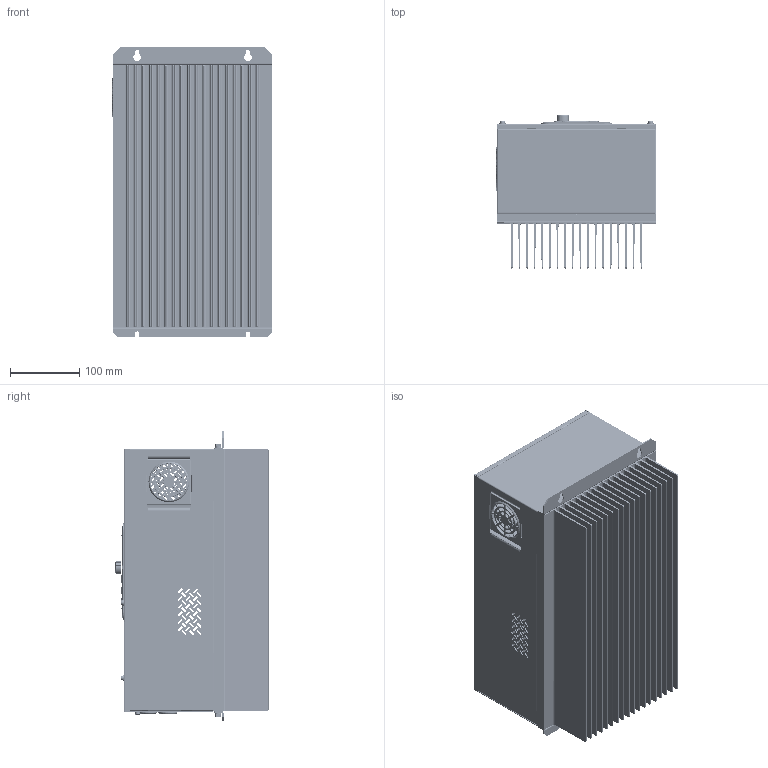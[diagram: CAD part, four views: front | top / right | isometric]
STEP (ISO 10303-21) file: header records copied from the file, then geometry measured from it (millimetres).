
FILE_DESCRIPTION((''),'2;1');
FILE_NAME('GD350-02-018G-4_ASM_ASM','2024-07-19T10:33:08',('Administrator'),(''),'CREO PARAMETRIC BY PTC INC, 2019080','CREO PARAMETRIC BY PTC INC, 2019080','');
FILE_SCHEMA(('CONFIG_CONTROL_DESIGN'));
Products named in the file (69): PCB_FACILITY-15KW__3; PCB_TERMINAL_01-1031_1_1; PCB_TERMINAL_01-1031_1_2; PCB_TERMINAL_01-1031_1_3; PCB_TERMINAL_01-1031_1_ASM; TERMINAL_01_SCREW_15KW_1; TERMINAL_01_METAL_02_15KW_1; TERMINAL_01_METAL_01_15KW_1; TERMINAL_01_NUT_15KW_1; TERMINAL_01_SCREW_15KW_ASM_2_ASM; PCB_FACILITY-15KW__ASM_3_ASM; 39004-00040_2; 39004-00033_2; FAN-CONN_ASM_3; FAN_60_BRACKET_1; GD300-02-018G-4-ES_ASM_6_ASM; 70610445_1; 80310247_1; S-M4-ZC_1; YMD-55-0D8-SL_1; 80310247_ASM_1_ASM; 80382139_1; 61210133_ASM_2_ASM; 803810497_1; S-M3-ZC_1; S-M5-ZC_1; SO-M4-10-ZC_1; 803810497_ASM_1_ASM; 80382128_1; 80382129_1; 80382129_ASM_1_ASM; 86052318_1; 86052318_ASM_1_ASM; 86052398_1; 86052398_ASM_1_ASM; 78470069_1; GB9074_8_M4X10_1; GB9074_8_M3X8_ZC_1; 41000186FS_ASM_2_ASM; 41001380_ASM_2_ASM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
Assembly tree (151 placements, depth 6):
  GD350-02-018G-4_ASM_ASM
    GD350-02-018G-4_ASM_3_ASM
      GD300-02-018G-4-ES_ASM_6_ASM
        PCB_FACILITY-15KW__ASM_3_ASM
          PCB_FACILITY-15KW__3
          PCB_TERMINAL_01-1031_1_ASM  x2
            PCB_TERMINAL_01-1031_1_1
            PCB_TERMINAL_01-1031_1_2
            PCB_TERMINAL_01-1031_1_3
          TERMINAL_01_SCREW_15KW_ASM_2_ASM  x9
            TERMINAL_01_SCREW_15KW_1
            TERMINAL_01_METAL_02_15KW_1
            TERMINAL_01_METAL_01_15KW_1
            TERMINAL_01_NUT_15KW_1
        39004-00040_2  x3
        39004-00033_2  x2
        FAN-CONN_ASM_3
        FAN_60_BRACKET_1
      70610445_1
      41001380_ASM_2_ASM
        61210133_ASM_2_ASM
          80310247_ASM_1_ASM
            80310247_1
            S-M4-ZC_1  x6
            YMD-55-0D8-SL_1  x2
          80382139_1
        803810497_ASM_1_ASM
          803810497_1
          S-M3-ZC_1  x2
          S-M4-ZC_1  x2
          S-M5-ZC_1  x2
          SO-M4-10-ZC_1  x4
        80382128_1
        80382129_ASM_1_ASM
          80382129_1
          YMD-55-0D8-SL_1  x2
        86052318_ASM_1_ASM
          86052318_1
          YMD-55-0D8-SL_1  x2
        86052398_ASM_1_ASM
          86052398_1
          YMD-55-0D8-SL_1  x2
        78470069_1
        41000186FS_ASM_2_ASM
          GB9074_8_M4X10_1  x8
          GB9074_8_M3X8_ZC_1  x2
      GD300-02-018G-4-FS_ASM_2_ASM
        GB9074_13_M5X12_ZC_1  x2
      40800423_ASM_1_ASM
        80382285_1
        80382288_1
      80780074_1
      GD300-NEW-JP_ASM_2_ASM
        80740011_2
        80740157_2
        88170000JP_1
        80740014_1
      PA1704_CT1_A2_ASM_2_ASM
        PA1704_CT1_A2_2
        E-SP-SMD45_1  x26
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Bounding box: 231.5 x 221.1 x 419 mm (x, y, z)
Volume: 3318462.3 mm3; surface area: 2211767.8 mm2
Topology: 159 solids, 213 shells, 13056 faces, 35246 edges, 22838 vertices
Faces by surface type: plane 9568, cylinder 2383, torus 402, cone 379, bspline 147, sphere 145, extrusion 32
Entity records: 241957 total; most frequent: CARTESIAN_POINT 54003, ORIENTED_EDGE 39348, DIRECTION 37946, EDGE_CURVE 19742, VECTOR 14226, LINE 14194, VERTEX_POINT 12800, AXIS2_PLACEMENT_3D 11860
